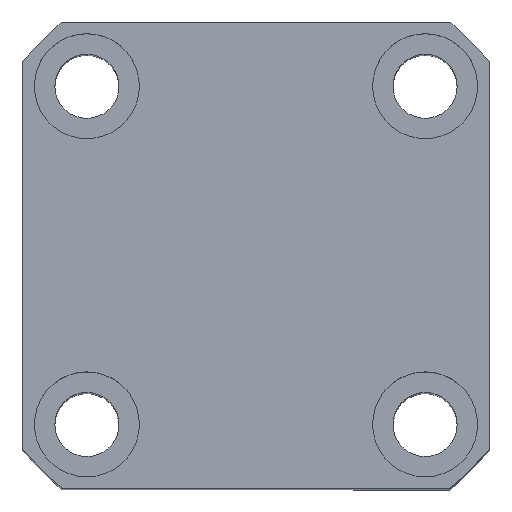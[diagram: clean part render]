
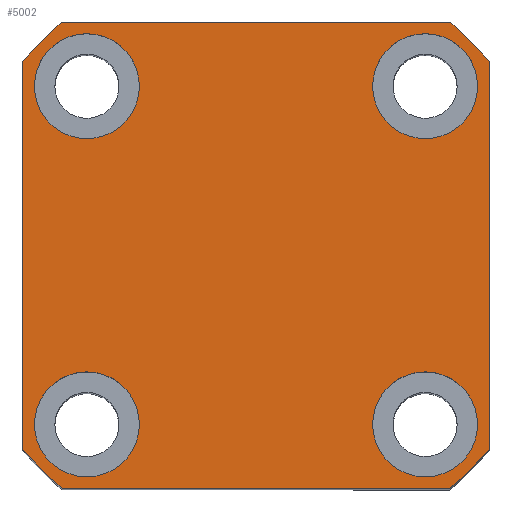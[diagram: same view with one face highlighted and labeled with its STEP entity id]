
A CAD part, top view. The second image highlights one B-rep face of the part: STEP entity #5002.
In plain terms, the highlighted planar face has unit normal (0, 0, 1).
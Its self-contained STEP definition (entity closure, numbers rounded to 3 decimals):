
#32 = VERTEX_POINT ( 'NONE', #13847 ) ;
#60 = CARTESIAN_POINT ( 'NONE',  ( 20., 29., 72.5 ) ) ;
#100 = ORIENTED_EDGE ( 'NONE', *, *, #10317, .T. ) ;
#143 = ORIENTED_EDGE ( 'NONE', *, *, #9042, .F. ) ;
#251 = DIRECTION ( 'NONE',  ( 1., 0., 0. ) ) ;
#293 = AXIS2_PLACEMENT_3D ( 'NONE', #10391, #11449, #2781 ) ;
#327 = VERTEX_POINT ( 'NONE', #5202 ) ;
#352 = CARTESIAN_POINT ( 'NONE',  ( 40., 33.226, 72.5 ) ) ;
#357 = CARTESIAN_POINT ( 'NONE',  ( 38., -29., 72.5 ) ) ;
#364 = ORIENTED_EDGE ( 'NONE', *, *, #3627, .T. ) ;
#403 = CIRCLE ( 'NONE', #293, 9. ) ;
#416 = LINE ( 'NONE', #11758, #10874 ) ;
#878 = ORIENTED_EDGE ( 'NONE', *, *, #14151, .F. ) ;
#957 = EDGE_CURVE ( 'NONE', #5936, #5826, #416, .T. ) ;
#961 = AXIS2_PLACEMENT_3D ( 'NONE', #9933, #11026, #11075 ) ;
#1115 = LINE ( 'NONE', #352, #1454 ) ;
#1179 = DIRECTION ( 'NONE',  ( 1., 0., 0. ) ) ;
#1256 = DIRECTION ( 'NONE',  ( 0., 0., 1. ) ) ;
#1443 = EDGE_LOOP ( 'NONE', ( #8830, #3122, #3161, #11022, #10503, #9460, #364, #100 ) ) ;
#1454 = VECTOR ( 'NONE', #13630, 1000. ) ;
#1555 = EDGE_LOOP ( 'NONE', ( #143, #5087 ) ) ;
#1613 = EDGE_LOOP ( 'NONE', ( #3138, #4509 ) ) ;
#1641 = CARTESIAN_POINT ( 'NONE',  ( -38., 29., 72.5 ) ) ;
#1678 = CARTESIAN_POINT ( 'NONE',  ( 0., 0., 72.5 ) ) ;
#1838 = DIRECTION ( 'NONE',  ( 0., 0., 1. ) ) ;
#1893 = EDGE_CURVE ( 'NONE', #3144, #9455, #403, .T. ) ;
#2058 = AXIS2_PLACEMENT_3D ( 'NONE', #1678, #7005, #12552 ) ;
#2090 = CARTESIAN_POINT ( 'NONE',  ( -40., 33.226, 72.5 ) ) ;
#2112 = VECTOR ( 'NONE', #6629, 1000. ) ;
#2299 = EDGE_CURVE ( 'NONE', #10981, #10841, #7439, .T. ) ;
#2508 = DIRECTION ( 'NONE',  ( 0., 0., 1. ) ) ;
#2564 = DIRECTION ( 'NONE',  ( 1., 0., 0. ) ) ;
#2781 = DIRECTION ( 'NONE',  ( 1., 0., 0. ) ) ;
#2991 = AXIS2_PLACEMENT_3D ( 'NONE', #12651, #13765, #12706 ) ;
#3051 = DIRECTION ( 'NONE',  ( 0., 0., 1. ) ) ;
#3122 = ORIENTED_EDGE ( 'NONE', *, *, #957, .T. ) ;
#3138 = ORIENTED_EDGE ( 'NONE', *, *, #9763, .F. ) ;
#3144 = VERTEX_POINT ( 'NONE', #357 ) ;
#3161 = ORIENTED_EDGE ( 'NONE', *, *, #9581, .T. ) ;
#3187 = DIRECTION ( 'NONE',  ( 1., 0., 0. ) ) ;
#3470 = CARTESIAN_POINT ( 'NONE',  ( 20., -29., 72.5 ) ) ;
#3627 = EDGE_CURVE ( 'NONE', #12063, #8062, #7342, .T. ) ;
#3836 = DIRECTION ( 'NONE',  ( 0., 0., 1. ) ) ;
#3985 = FACE_OUTER_BOUND ( 'NONE', #1443, .T. ) ;
#4096 = AXIS2_PLACEMENT_3D ( 'NONE', #6917, #10227, #2564 ) ;
#4192 = EDGE_LOOP ( 'NONE', ( #11574, #878 ) ) ;
#4214 = DIRECTION ( 'NONE',  ( 0., -1., 0. ) ) ;
#4509 = ORIENTED_EDGE ( 'NONE', *, *, #8275, .F. ) ;
#4582 = CARTESIAN_POINT ( 'NONE',  ( -29., -29., 72.5 ) ) ;
#4703 = CIRCLE ( 'NONE', #2058, 52. ) ;
#4999 = AXIS2_PLACEMENT_3D ( 'NONE', #13958, #11785, #8390 ) ;
#5002 = ADVANCED_FACE ( 'NONE', ( #8940, #10984, #5518, #6027, #3985 ), #13227, .T. ) ;
#5064 = VECTOR ( 'NONE', #1179, 1000. ) ;
#5087 = ORIENTED_EDGE ( 'NONE', *, *, #2299, .F. ) ;
#5131 = CARTESIAN_POINT ( 'NONE',  ( 29., 29., 72.5 ) ) ;
#5157 = CIRCLE ( 'NONE', #8878, 9. ) ;
#5190 = AXIS2_PLACEMENT_3D ( 'NONE', #14096, #14191, #3187 ) ;
#5202 = CARTESIAN_POINT ( 'NONE',  ( 40., -33.226, 72.5 ) ) ;
#5214 = CARTESIAN_POINT ( 'NONE',  ( 0., 0., 72.5 ) ) ;
#5424 = CIRCLE ( 'NONE', #11403, 9. ) ;
#5518 = FACE_BOUND ( 'NONE', #1555, .T. ) ;
#5826 = VERTEX_POINT ( 'NONE', #13730 ) ;
#5898 = CIRCLE ( 'NONE', #2991, 9. ) ;
#5936 = VERTEX_POINT ( 'NONE', #2090 ) ;
#6027 = FACE_BOUND ( 'NONE', #4192, .T. ) ;
#6246 = AXIS2_PLACEMENT_3D ( 'NONE', #7810, #1256, #10023 ) ;
#6629 = DIRECTION ( 'NONE',  ( -1., 0., 0. ) ) ;
#6679 = VERTEX_POINT ( 'NONE', #8690 ) ;
#6817 = DIRECTION ( 'NONE',  ( 1., 0., 0. ) ) ;
#6917 = CARTESIAN_POINT ( 'NONE',  ( 0., 0., 72.5 ) ) ;
#7005 = DIRECTION ( 'NONE',  ( 0., 0., 1. ) ) ;
#7342 = CIRCLE ( 'NONE', #961, 52. ) ;
#7399 = CARTESIAN_POINT ( 'NONE',  ( -20., 29., 72.5 ) ) ;
#7439 = CIRCLE ( 'NONE', #5190, 9. ) ;
#7462 = CIRCLE ( 'NONE', #4096, 52. ) ;
#7645 = EDGE_CURVE ( 'NONE', #12192, #10022, #12789, .T. ) ;
#7810 = CARTESIAN_POINT ( 'NONE',  ( 0., 0., 72.5 ) ) ;
#7912 = DIRECTION ( 'NONE',  ( 0., 0., 1. ) ) ;
#7951 = CARTESIAN_POINT ( 'NONE',  ( 29., -29., 72.5 ) ) ;
#7954 = LINE ( 'NONE', #12185, #5064 ) ;
#8062 = VERTEX_POINT ( 'NONE', #12574 ) ;
#8100 = LINE ( 'NONE', #11029, #2112 ) ;
#8151 = VERTEX_POINT ( 'NONE', #13109 ) ;
#8204 = VERTEX_POINT ( 'NONE', #8658 ) ;
#8245 = EDGE_CURVE ( 'NONE', #8204, #13064, #7954, .T. ) ;
#8275 = EDGE_CURVE ( 'NONE', #8151, #32, #5424, .T. ) ;
#8286 = CIRCLE ( 'NONE', #4999, 9. ) ;
#8390 = DIRECTION ( 'NONE',  ( 1., 0., 0. ) ) ;
#8484 = EDGE_CURVE ( 'NONE', #13064, #327, #7462, .T. ) ;
#8491 = EDGE_CURVE ( 'NONE', #327, #12063, #1115, .T. ) ;
#8658 = CARTESIAN_POINT ( 'NONE',  ( -33.226, -40., 72.5 ) ) ;
#8690 = CARTESIAN_POINT ( 'NONE',  ( -33.226, 40., 72.5 ) ) ;
#8830 = ORIENTED_EDGE ( 'NONE', *, *, #8856, .T. ) ;
#8856 = EDGE_CURVE ( 'NONE', #6679, #5936, #13796, .T. ) ;
#8878 = AXIS2_PLACEMENT_3D ( 'NONE', #9560, #1838, #11750 ) ;
#8940 = FACE_BOUND ( 'NONE', #12526, .T. ) ;
#9042 = EDGE_CURVE ( 'NONE', #10841, #10981, #5898, .T. ) ;
#9325 = CIRCLE ( 'NONE', #13075, 9. ) ;
#9394 = EDGE_CURVE ( 'NONE', #9455, #3144, #9325, .T. ) ;
#9455 = VERTEX_POINT ( 'NONE', #3470 ) ;
#9460 = ORIENTED_EDGE ( 'NONE', *, *, #8491, .T. ) ;
#9560 = CARTESIAN_POINT ( 'NONE',  ( 29., 29., 72.5 ) ) ;
#9581 = EDGE_CURVE ( 'NONE', #5826, #8204, #4703, .T. ) ;
#9763 = EDGE_CURVE ( 'NONE', #32, #8151, #8286, .T. ) ;
#9921 = CARTESIAN_POINT ( 'NONE',  ( 40., 33.226, 72.5 ) ) ;
#9933 = CARTESIAN_POINT ( 'NONE',  ( 0., 0., 72.5 ) ) ;
#10022 = VERTEX_POINT ( 'NONE', #60 ) ;
#10023 = DIRECTION ( 'NONE',  ( 1., 0., 0. ) ) ;
#10227 = DIRECTION ( 'NONE',  ( 0., 0., 1. ) ) ;
#10248 = CARTESIAN_POINT ( 'NONE',  ( 38., 29., 72.5 ) ) ;
#10317 = EDGE_CURVE ( 'NONE', #8062, #6679, #8100, .T. ) ;
#10391 = CARTESIAN_POINT ( 'NONE',  ( 29., -29., 72.5 ) ) ;
#10503 = ORIENTED_EDGE ( 'NONE', *, *, #8484, .T. ) ;
#10841 = VERTEX_POINT ( 'NONE', #7399 ) ;
#10874 = VECTOR ( 'NONE', #4214, 1000. ) ;
#10981 = VERTEX_POINT ( 'NONE', #1641 ) ;
#10984 = FACE_BOUND ( 'NONE', #1613, .T. ) ;
#11022 = ORIENTED_EDGE ( 'NONE', *, *, #8245, .T. ) ;
#11026 = DIRECTION ( 'NONE',  ( 0., 0., 1. ) ) ;
#11029 = CARTESIAN_POINT ( 'NONE',  ( -33.226, 40., 72.5 ) ) ;
#11075 = DIRECTION ( 'NONE',  ( 1., 0., 0. ) ) ;
#11403 = AXIS2_PLACEMENT_3D ( 'NONE', #4582, #7912, #6817 ) ;
#11449 = DIRECTION ( 'NONE',  ( 0., 0., 1. ) ) ;
#11574 = ORIENTED_EDGE ( 'NONE', *, *, #7645, .F. ) ;
#11750 = DIRECTION ( 'NONE',  ( 1., 0., 0. ) ) ;
#11758 = CARTESIAN_POINT ( 'NONE',  ( -40., 33.226, 72.5 ) ) ;
#11785 = DIRECTION ( 'NONE',  ( 0., 0., 1. ) ) ;
#11869 = AXIS2_PLACEMENT_3D ( 'NONE', #5214, #3051, #14015 ) ;
#11985 = CARTESIAN_POINT ( 'NONE',  ( 33.226, -40., 72.5 ) ) ;
#12063 = VERTEX_POINT ( 'NONE', #9921 ) ;
#12185 = CARTESIAN_POINT ( 'NONE',  ( -33.226, -40., 72.5 ) ) ;
#12192 = VERTEX_POINT ( 'NONE', #10248 ) ;
#12526 = EDGE_LOOP ( 'NONE', ( #14202, #13957 ) ) ;
#12552 = DIRECTION ( 'NONE',  ( 1., 0., 0. ) ) ;
#12574 = CARTESIAN_POINT ( 'NONE',  ( 33.226, 40., 72.5 ) ) ;
#12651 = CARTESIAN_POINT ( 'NONE',  ( -29., 29., 72.5 ) ) ;
#12706 = DIRECTION ( 'NONE',  ( 1., 0., 0. ) ) ;
#12787 = DIRECTION ( 'NONE',  ( 1., 0., 0. ) ) ;
#12789 = CIRCLE ( 'NONE', #13896, 9. ) ;
#13064 = VERTEX_POINT ( 'NONE', #11985 ) ;
#13075 = AXIS2_PLACEMENT_3D ( 'NONE', #7951, #2508, #251 ) ;
#13109 = CARTESIAN_POINT ( 'NONE',  ( -38., -29., 72.5 ) ) ;
#13227 = PLANE ( 'NONE',  #6246 ) ;
#13630 = DIRECTION ( 'NONE',  ( 0., 1., 0. ) ) ;
#13730 = CARTESIAN_POINT ( 'NONE',  ( -40., -33.226, 72.5 ) ) ;
#13765 = DIRECTION ( 'NONE',  ( 0., 0., 1. ) ) ;
#13796 = CIRCLE ( 'NONE', #11869, 52. ) ;
#13847 = CARTESIAN_POINT ( 'NONE',  ( -20., -29., 72.5 ) ) ;
#13896 = AXIS2_PLACEMENT_3D ( 'NONE', #5131, #3836, #12787 ) ;
#13957 = ORIENTED_EDGE ( 'NONE', *, *, #9394, .F. ) ;
#13958 = CARTESIAN_POINT ( 'NONE',  ( -29., -29., 72.5 ) ) ;
#14015 = DIRECTION ( 'NONE',  ( 1., 0., 0. ) ) ;
#14096 = CARTESIAN_POINT ( 'NONE',  ( -29., 29., 72.5 ) ) ;
#14151 = EDGE_CURVE ( 'NONE', #10022, #12192, #5157, .T. ) ;
#14191 = DIRECTION ( 'NONE',  ( 0., 0., 1. ) ) ;
#14202 = ORIENTED_EDGE ( 'NONE', *, *, #1893, .F. ) ;
